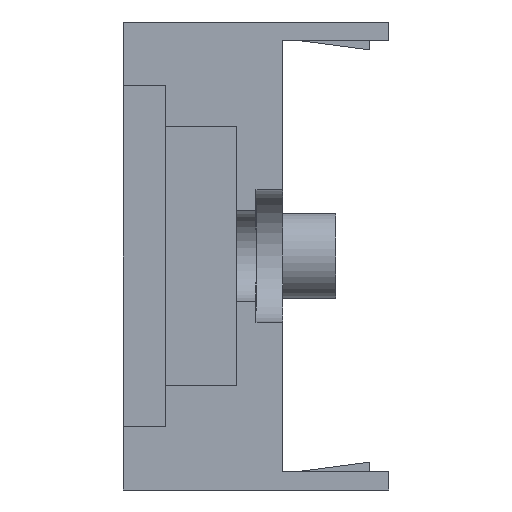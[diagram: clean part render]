
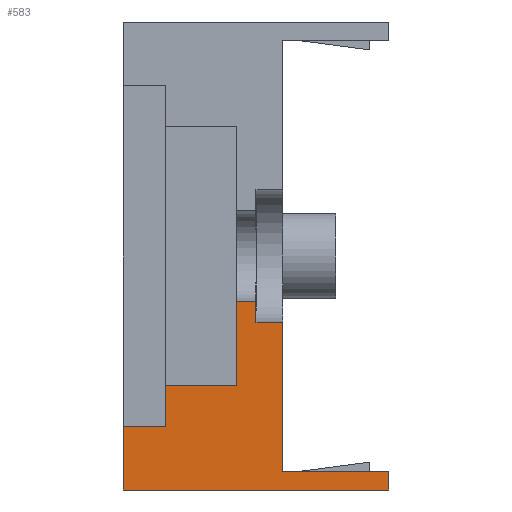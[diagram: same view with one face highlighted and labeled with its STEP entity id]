
A CAD part, left-side view. The second image highlights one B-rep face of the part: STEP entity #583.
In plain terms, the highlighted planar face has unit normal (-1, 0, 0).
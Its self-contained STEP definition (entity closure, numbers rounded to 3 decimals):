
#56 = CARTESIAN_POINT ( 'NONE',  ( -17.5, 0., -20.3 ) ) ;
#64 = VECTOR ( 'NONE', #3280, 1000. ) ;
#86 = ORIENTED_EDGE ( 'NONE', *, *, #1639, .T. ) ;
#157 = DIRECTION ( 'NONE',  ( 0., 0., -1. ) ) ;
#198 = LINE ( 'NONE', #1636, #830 ) ;
#453 = CARTESIAN_POINT ( 'NONE',  ( -17.5, 0., -20.3 ) ) ;
#472 = DIRECTION ( 'NONE',  ( 0., 1., 0. ) ) ;
#494 = VERTEX_POINT ( 'NONE', #1675 ) ;
#498 = VECTOR ( 'NONE', #2463, 1000. ) ;
#515 = DIRECTION ( 'NONE',  ( 1., 0., 0. ) ) ;
#575 = VECTOR ( 'NONE', #472, 1000. ) ;
#583 = ADVANCED_FACE ( 'NONE', ( #3609 ), #1160, .F. ) ;
#591 = CARTESIAN_POINT ( 'NONE',  ( -17.5, 0., -22. ) ) ;
#594 = LINE ( 'NONE', #3924, #2634 ) ;
#616 = ORIENTED_EDGE ( 'NONE', *, *, #1081, .T. ) ;
#617 = CARTESIAN_POINT ( 'NONE',  ( -17.5, 14.3, -12.2 ) ) ;
#663 = EDGE_CURVE ( 'NONE', #1209, #494, #3683, .T. ) ;
#678 = EDGE_CURVE ( 'NONE', #1583, #2980, #594, .T. ) ;
#683 = EDGE_CURVE ( 'NONE', #1333, #3586, #3624, .T. ) ;
#693 = ORIENTED_EDGE ( 'NONE', *, *, #3638, .F. ) ;
#773 = LINE ( 'NONE', #2886, #575 ) ;
#776 = VECTOR ( 'NONE', #1703, 1000. ) ;
#826 = EDGE_CURVE ( 'NONE', #2183, #3721, #1627, .T. ) ;
#830 = VECTOR ( 'NONE', #1065, 1000. ) ;
#843 = CARTESIAN_POINT ( 'NONE',  ( -17.5, 10., -20.3 ) ) ;
#854 = VERTEX_POINT ( 'NONE', #1010 ) ;
#896 = CARTESIAN_POINT ( 'NONE',  ( -17.5, 25., -16. ) ) ;
#1003 = DIRECTION ( 'NONE',  ( 0., 1., 0. ) ) ;
#1010 = CARTESIAN_POINT ( 'NONE',  ( -17.5, 25., -22. ) ) ;
#1065 = DIRECTION ( 'NONE',  ( 0., -1., 0. ) ) ;
#1081 = EDGE_CURVE ( 'NONE', #494, #1316, #2190, .T. ) ;
#1126 = CARTESIAN_POINT ( 'NONE',  ( -17.5, 21., -12.2 ) ) ;
#1160 = PLANE ( 'NONE',  #3956 ) ;
#1209 = VERTEX_POINT ( 'NONE', #1352 ) ;
#1316 = VERTEX_POINT ( 'NONE', #1126 ) ;
#1326 = LINE ( 'NONE', #2242, #3707 ) ;
#1333 = VERTEX_POINT ( 'NONE', #3630 ) ;
#1339 = EDGE_CURVE ( 'NONE', #3721, #3586, #2956, .T. ) ;
#1352 = CARTESIAN_POINT ( 'NONE',  ( -17.5, 14.3, -4.25 ) ) ;
#1468 = ORIENTED_EDGE ( 'NONE', *, *, #2555, .T. ) ;
#1482 = DIRECTION ( 'NONE',  ( 0., 0., 1. ) ) ;
#1583 = VERTEX_POINT ( 'NONE', #2124 ) ;
#1609 = ORIENTED_EDGE ( 'NONE', *, *, #826, .T. ) ;
#1627 = LINE ( 'NONE', #56, #3458 ) ;
#1636 = CARTESIAN_POINT ( 'NONE',  ( -17.5, 25., -22. ) ) ;
#1639 = EDGE_CURVE ( 'NONE', #1316, #1583, #1326, .T. ) ;
#1675 = CARTESIAN_POINT ( 'NONE',  ( -17.5, 14.3, -12.2 ) ) ;
#1703 = DIRECTION ( 'NONE',  ( 0., 0., -1. ) ) ;
#1711 = ORIENTED_EDGE ( 'NONE', *, *, #2217, .T. ) ;
#1754 = DIRECTION ( 'NONE',  ( 0., 0., -1. ) ) ;
#1756 = EDGE_CURVE ( 'NONE', #2386, #2183, #2078, .T. ) ;
#1842 = EDGE_LOOP ( 'NONE', ( #693, #1711, #2272, #616, #86, #1868, #1468, #2472, #3923, #1609, #1865, #3345 ) ) ;
#1865 = ORIENTED_EDGE ( 'NONE', *, *, #1339, .T. ) ;
#1868 = ORIENTED_EDGE ( 'NONE', *, *, #678, .T. ) ;
#2078 = LINE ( 'NONE', #2406, #2761 ) ;
#2088 = CARTESIAN_POINT ( 'NONE',  ( -17.5, 12.5, 6.25 ) ) ;
#2117 = CARTESIAN_POINT ( 'NONE',  ( -17.5, 12.5, -6.25 ) ) ;
#2124 = CARTESIAN_POINT ( 'NONE',  ( -17.5, 21., -16. ) ) ;
#2183 = VERTEX_POINT ( 'NONE', #453 ) ;
#2190 = LINE ( 'NONE', #617, #3705 ) ;
#2217 = EDGE_CURVE ( 'NONE', #2325, #1209, #773, .T. ) ;
#2242 = CARTESIAN_POINT ( 'NONE',  ( -17.5, 21., -12.2 ) ) ;
#2272 = ORIENTED_EDGE ( 'NONE', *, *, #663, .T. ) ;
#2325 = VERTEX_POINT ( 'NONE', #3862 ) ;
#2343 = CARTESIAN_POINT ( 'NONE',  ( -17.5, 0., 0. ) ) ;
#2386 = VERTEX_POINT ( 'NONE', #591 ) ;
#2406 = CARTESIAN_POINT ( 'NONE',  ( -17.5, 0., -22. ) ) ;
#2463 = DIRECTION ( 'NONE',  ( 0., -1., 0. ) ) ;
#2472 = ORIENTED_EDGE ( 'NONE', *, *, #2895, .T. ) ;
#2542 = DIRECTION ( 'NONE',  ( 0., 1., 0. ) ) ;
#2555 = EDGE_CURVE ( 'NONE', #2980, #854, #3225, .T. ) ;
#2634 = VECTOR ( 'NONE', #2792, 1000. ) ;
#2700 = LINE ( 'NONE', #2088, #776 ) ;
#2761 = VECTOR ( 'NONE', #1482, 1000. ) ;
#2774 = CARTESIAN_POINT ( 'NONE',  ( -17.5, 14.3, 12.2 ) ) ;
#2792 = DIRECTION ( 'NONE',  ( 0., 1., 0. ) ) ;
#2881 = DIRECTION ( 'NONE',  ( 0., 0., -1. ) ) ;
#2886 = CARTESIAN_POINT ( 'NONE',  ( -17.5, 11.8, -4.25 ) ) ;
#2895 = EDGE_CURVE ( 'NONE', #854, #2386, #198, .T. ) ;
#2956 = LINE ( 'NONE', #843, #64 ) ;
#2980 = VERTEX_POINT ( 'NONE', #896 ) ;
#3225 = LINE ( 'NONE', #3435, #3715 ) ;
#3280 = DIRECTION ( 'NONE',  ( 0., 0., 1. ) ) ;
#3345 = ORIENTED_EDGE ( 'NONE', *, *, #683, .F. ) ;
#3435 = CARTESIAN_POINT ( 'NONE',  ( -17.5, 25., -16. ) ) ;
#3447 = VECTOR ( 'NONE', #3665, 1000. ) ;
#3458 = VECTOR ( 'NONE', #2542, 1000. ) ;
#3538 = CARTESIAN_POINT ( 'NONE',  ( -17.5, 10., -6.25 ) ) ;
#3586 = VERTEX_POINT ( 'NONE', #3538 ) ;
#3609 = FACE_OUTER_BOUND ( 'NONE', #1842, .T. ) ;
#3624 = LINE ( 'NONE', #2117, #498 ) ;
#3630 = CARTESIAN_POINT ( 'NONE',  ( -17.5, 12.5, -6.25 ) ) ;
#3638 = EDGE_CURVE ( 'NONE', #2325, #1333, #2700, .T. ) ;
#3665 = DIRECTION ( 'NONE',  ( 0., 0., -1. ) ) ;
#3683 = LINE ( 'NONE', #2774, #3447 ) ;
#3705 = VECTOR ( 'NONE', #1003, 1000. ) ;
#3707 = VECTOR ( 'NONE', #157, 1000. ) ;
#3715 = VECTOR ( 'NONE', #2881, 1000. ) ;
#3721 = VERTEX_POINT ( 'NONE', #3893 ) ;
#3862 = CARTESIAN_POINT ( 'NONE',  ( -17.5, 12.5, -4.25 ) ) ;
#3893 = CARTESIAN_POINT ( 'NONE',  ( -17.5, 10., -20.3 ) ) ;
#3923 = ORIENTED_EDGE ( 'NONE', *, *, #1756, .T. ) ;
#3924 = CARTESIAN_POINT ( 'NONE',  ( -17.5, 21., -16. ) ) ;
#3956 = AXIS2_PLACEMENT_3D ( 'NONE', #2343, #515, #1754 ) ;
